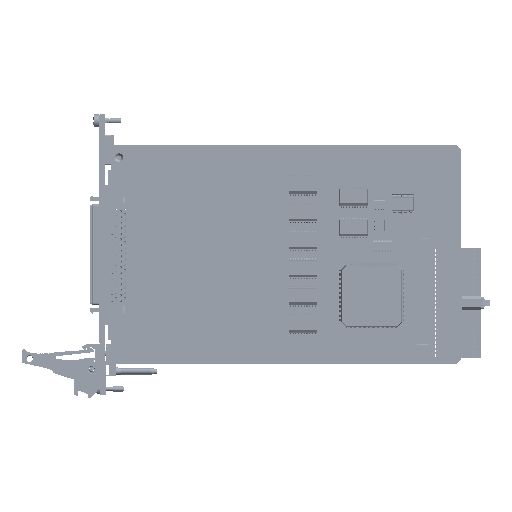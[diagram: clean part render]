
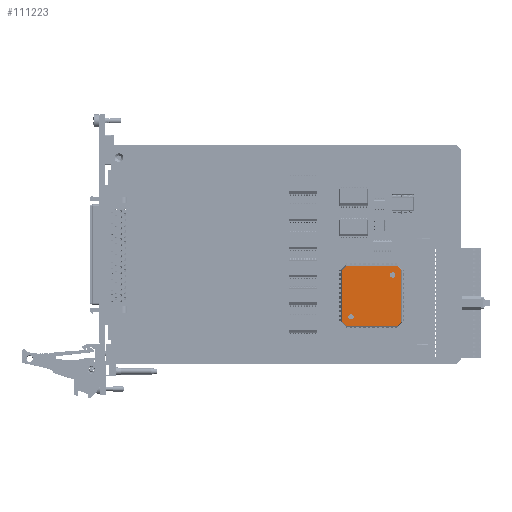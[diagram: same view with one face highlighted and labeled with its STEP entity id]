
A CAD part, top view. The second image highlights one B-rep face of the part: STEP entity #111223.
In plain terms, the highlighted planar face has unit normal (0, 0, 1) as drawn and (0, 1, 0) by its records, which use the part's own axes.
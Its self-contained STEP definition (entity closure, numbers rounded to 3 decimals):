
#4318 = CARTESIAN_POINT ( 'NONE',  ( 9.544, 1.7, -8.294 ) ) ;
#5586 = CARTESIAN_POINT ( 'NONE',  ( -12., 1.7, 13.544 ) ) ;
#8326 = VECTOR ( 'NONE', #49130, 1000. ) ;
#20713 = FACE_BOUND ( 'NONE', #262659, .T. ) ;
#28120 = LINE ( 'NONE', #109917, #8326 ) ;
#30587 = EDGE_CURVE ( 'NONE', #166827, #64300, #297900, .T. ) ;
#37357 = VERTEX_POINT ( 'NONE', #49960 ) ;
#38667 = DIRECTION ( 'NONE',  ( 1., 0., 0. ) ) ;
#40346 = ORIENTED_EDGE ( 'NONE', *, *, #403638, .T. ) ;
#45962 = ORIENTED_EDGE ( 'NONE', *, *, #305473, .T. ) ;
#46920 = DIRECTION ( 'NONE',  ( 0., 0., -1. ) ) ;
#47609 = CARTESIAN_POINT ( 'NONE',  ( -9.544, 1.7, 9.544 ) ) ;
#49130 = DIRECTION ( 'NONE',  ( 0.707, 0., -0.707 ) ) ;
#49960 = CARTESIAN_POINT ( 'NONE',  ( 13.544, 1.7, -11.811 ) ) ;
#56241 = CARTESIAN_POINT ( 'NONE',  ( 26., 1.7, 0. ) ) ;
#62199 = DIRECTION ( 'NONE',  ( 0., 0., -1. ) ) ;
#64300 = VERTEX_POINT ( 'NONE', #233733 ) ;
#64945 = VECTOR ( 'NONE', #231485, 1000. ) ;
#68807 = CARTESIAN_POINT ( 'NONE',  ( -13.544, 1.7, 11.811 ) ) ;
#70478 = CARTESIAN_POINT ( 'NONE',  ( 11.811, 1.7, -13.544 ) ) ;
#72266 = DIRECTION ( 'NONE',  ( 0., 0., -1. ) ) ;
#75036 = EDGE_LOOP ( 'NONE', ( #246408, #40346 ) ) ;
#81316 = ORIENTED_EDGE ( 'NONE', *, *, #348419, .T. ) ;
#81344 = CARTESIAN_POINT ( 'NONE',  ( -9.544, 1.7, 9.544 ) ) ;
#83410 = EDGE_LOOP ( 'NONE', ( #199031, #325547, #254191, #354818, #190613, #334280, #226258, #45962 ) ) ;
#85461 = CIRCLE ( 'NONE', #370335, 1.249 ) ;
#89101 = DIRECTION ( 'NONE',  ( 0., 0., -1. ) ) ;
#91100 = EDGE_CURVE ( 'NONE', #286082, #326090, #28120, .T. ) ;
#98169 = EDGE_CURVE ( 'NONE', #288828, #171710, #351444, .T. ) ;
#103745 = EDGE_CURVE ( 'NONE', #37357, #115872, #207665, .T. ) ;
#106440 = VECTOR ( 'NONE', #89101, 1000. ) ;
#109917 = CARTESIAN_POINT ( 'NONE',  ( 11.678, 1.7, 13.678 ) ) ;
#111223 = ADVANCED_FACE ( 'NONE', ( #317226, #119118, #20713 ), #184775, .T. ) ;
#111785 = VECTOR ( 'NONE', #38667, 1000. ) ;
#114423 = CARTESIAN_POINT ( 'NONE',  ( -13.544, 1.7, -11.811 ) ) ;
#114492 = DIRECTION ( 'NONE',  ( 0., -1., 0. ) ) ;
#115872 = VERTEX_POINT ( 'NONE', #70478 ) ;
#119118 = FACE_OUTER_BOUND ( 'NONE', #83410, .T. ) ;
#133431 = VECTOR ( 'NONE', #353213, 1000. ) ;
#133975 = VERTEX_POINT ( 'NONE', #68807 ) ;
#137046 = ORIENTED_EDGE ( 'NONE', *, *, #30587, .T. ) ;
#151656 = DIRECTION ( 'NONE',  ( 0., 0., 1. ) ) ;
#161368 = EDGE_CURVE ( 'NONE', #191881, #331456, #85461, .T. ) ;
#163082 = EDGE_CURVE ( 'NONE', #171710, #133975, #193909, .T. ) ;
#163764 = VERTEX_POINT ( 'NONE', #192140 ) ;
#166827 = VERTEX_POINT ( 'NONE', #4318 ) ;
#171710 = VERTEX_POINT ( 'NONE', #114423 ) ;
#174018 = VECTOR ( 'NONE', #151656, 1000. ) ;
#174743 = DIRECTION ( 'NONE',  ( 0., 0., -1. ) ) ;
#175685 = CARTESIAN_POINT ( 'NONE',  ( 13.544, 1.7, 11.811 ) ) ;
#182066 = DIRECTION ( 'NONE',  ( 0., 1., 0. ) ) ;
#184775 = PLANE ( 'NONE',  #269113 ) ;
#190613 = ORIENTED_EDGE ( 'NONE', *, *, #340049, .T. ) ;
#191881 = VERTEX_POINT ( 'NONE', #329262 ) ;
#192140 = CARTESIAN_POINT ( 'NONE',  ( -11.811, 1.7, 13.544 ) ) ;
#193909 = LINE ( 'NONE', #212622, #174018 ) ;
#196018 = LINE ( 'NONE', #5586, #111785 ) ;
#199031 = ORIENTED_EDGE ( 'NONE', *, *, #103745, .T. ) ;
#201188 = AXIS2_PLACEMENT_3D ( 'NONE', #251676, #378766, #62199 ) ;
#207665 = LINE ( 'NONE', #321501, #133431 ) ;
#212622 = CARTESIAN_POINT ( 'NONE',  ( -13.544, 1.7, 12. ) ) ;
#226258 = ORIENTED_EDGE ( 'NONE', *, *, #91100, .T. ) ;
#231485 = DIRECTION ( 'NONE',  ( -1., 0., 0. ) ) ;
#233733 = CARTESIAN_POINT ( 'NONE',  ( 9.544, 1.7, -10.794 ) ) ;
#235050 = LINE ( 'NONE', #250988, #106440 ) ;
#236978 = DIRECTION ( 'NONE',  ( 0., -1., 0. ) ) ;
#239607 = EDGE_CURVE ( 'NONE', #163764, #286082, #196018, .T. ) ;
#240910 = CIRCLE ( 'NONE', #330811, 1.249 ) ;
#246408 = ORIENTED_EDGE ( 'NONE', *, *, #161368, .T. ) ;
#250988 = CARTESIAN_POINT ( 'NONE',  ( 13.544, 1.7, 12. ) ) ;
#251676 = CARTESIAN_POINT ( 'NONE',  ( 9.544, 1.7, -9.544 ) ) ;
#254191 = ORIENTED_EDGE ( 'NONE', *, *, #98169, .T. ) ;
#254517 = CARTESIAN_POINT ( 'NONE',  ( -11.678, 1.7, 13.678 ) ) ;
#257051 = CARTESIAN_POINT ( 'NONE',  ( 11.811, 1.7, 13.544 ) ) ;
#260357 = CARTESIAN_POINT ( 'NONE',  ( 9.544, 1.7, -9.544 ) ) ;
#262659 = EDGE_LOOP ( 'NONE', ( #137046, #81316 ) ) ;
#266162 = EDGE_CURVE ( 'NONE', #115872, #288828, #317324, .T. ) ;
#267307 = VECTOR ( 'NONE', #269447, 1000. ) ;
#269113 = AXIS2_PLACEMENT_3D ( 'NONE', #56241, #182066, #375519 ) ;
#269447 = DIRECTION ( 'NONE',  ( -0.707, 0., 0.707 ) ) ;
#280708 = LINE ( 'NONE', #254517, #340256 ) ;
#286082 = VERTEX_POINT ( 'NONE', #257051 ) ;
#288828 = VERTEX_POINT ( 'NONE', #305151 ) ;
#292162 = DIRECTION ( 'NONE',  ( 0., -1., 0. ) ) ;
#297900 = CIRCLE ( 'NONE', #400676, 1.25 ) ;
#301259 = CARTESIAN_POINT ( 'NONE',  ( -11.678, 1.7, -13.678 ) ) ;
#305151 = CARTESIAN_POINT ( 'NONE',  ( -11.811, 1.7, -13.544 ) ) ;
#305473 = EDGE_CURVE ( 'NONE', #326090, #37357, #235050, .T. ) ;
#317226 = FACE_BOUND ( 'NONE', #75036, .T. ) ;
#317324 = LINE ( 'NONE', #385516, #64945 ) ;
#321501 = CARTESIAN_POINT ( 'NONE',  ( 11.678, 1.7, -13.678 ) ) ;
#325547 = ORIENTED_EDGE ( 'NONE', *, *, #266162, .T. ) ;
#326090 = VERTEX_POINT ( 'NONE', #175685 ) ;
#329262 = CARTESIAN_POINT ( 'NONE',  ( -9.544, 1.7, 10.793 ) ) ;
#330811 = AXIS2_PLACEMENT_3D ( 'NONE', #47609, #236978, #174743 ) ;
#331456 = VERTEX_POINT ( 'NONE', #334900 ) ;
#334280 = ORIENTED_EDGE ( 'NONE', *, *, #239607, .T. ) ;
#334900 = CARTESIAN_POINT ( 'NONE',  ( -9.544, 1.7, 8.296 ) ) ;
#335854 = CIRCLE ( 'NONE', #201188, 1.25 ) ;
#340049 = EDGE_CURVE ( 'NONE', #133975, #163764, #280708, .T. ) ;
#340256 = VECTOR ( 'NONE', #388439, 1000. ) ;
#348419 = EDGE_CURVE ( 'NONE', #64300, #166827, #335854, .T. ) ;
#351444 = LINE ( 'NONE', #301259, #267307 ) ;
#353213 = DIRECTION ( 'NONE',  ( -0.707, 0., -0.707 ) ) ;
#354818 = ORIENTED_EDGE ( 'NONE', *, *, #163082, .T. ) ;
#370335 = AXIS2_PLACEMENT_3D ( 'NONE', #81344, #114492, #46920 ) ;
#375519 = DIRECTION ( 'NONE',  ( 0., 0., 1. ) ) ;
#378766 = DIRECTION ( 'NONE',  ( 0., -1., 0. ) ) ;
#385516 = CARTESIAN_POINT ( 'NONE',  ( -12., 1.7, -13.544 ) ) ;
#388439 = DIRECTION ( 'NONE',  ( 0.707, 0., 0.707 ) ) ;
#400676 = AXIS2_PLACEMENT_3D ( 'NONE', #260357, #292162, #72266 ) ;
#403638 = EDGE_CURVE ( 'NONE', #331456, #191881, #240910, .T. ) ;
